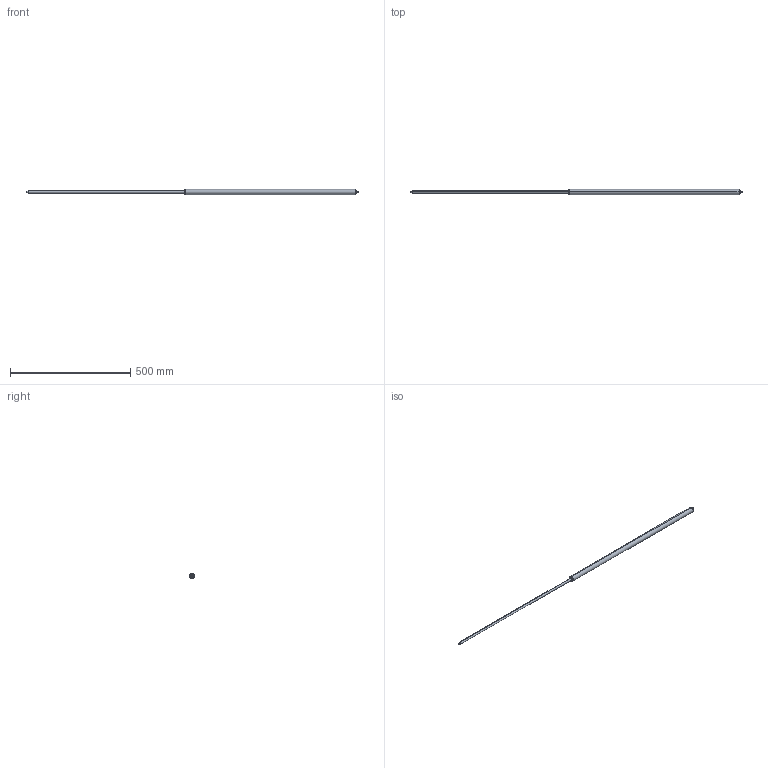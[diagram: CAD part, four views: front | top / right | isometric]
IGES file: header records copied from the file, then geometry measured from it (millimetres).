
Start section: SolidWorks IGES file using analytic representation for surfaces
Bounding box: 1381 x 22 x 22 mm (x, y, z)
Surface area: 70692.4 mm2 (no closed solid volume)
Topology: 0 solids, 0 shells, 25 faces, 336 edges, 336 vertices
Faces by surface type: revolution 16, bspline 9
